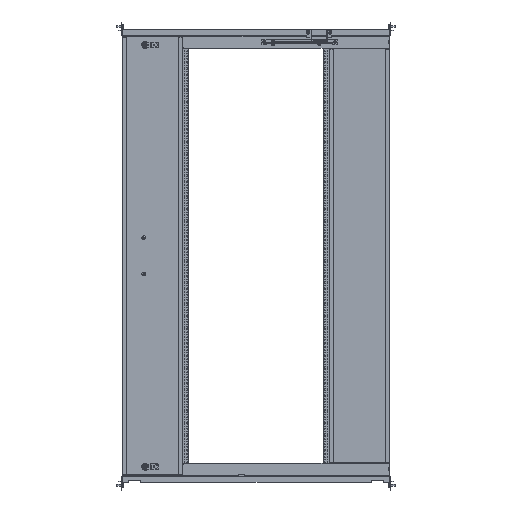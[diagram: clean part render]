
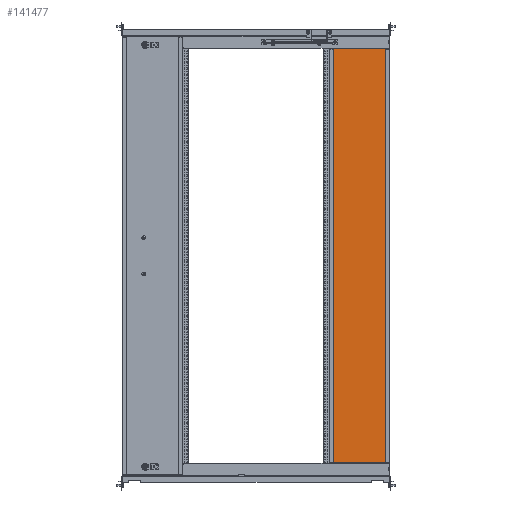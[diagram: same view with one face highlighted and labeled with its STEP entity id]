
A CAD part, top view. The second image highlights one B-rep face of the part: STEP entity #141477.
In plain terms, the highlighted planar face has unit normal (0, 0, 1).
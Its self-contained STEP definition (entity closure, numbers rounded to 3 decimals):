
#141060 = VERTEX_POINT('',#141061);
#141061 = CARTESIAN_POINT('',(-98.5,-686.9,0.));
#141067 = EDGE_CURVE('',#141068,#141060,#141070,.T.);
#141068 = VERTEX_POINT('',#141069);
#141069 = CARTESIAN_POINT('',(-98.5,686.9,0.));
#141070 = LINE('',#141071,#141072);
#141071 = CARTESIAN_POINT('',(-98.5,0.,
    0.));
#141072 = VECTOR('',#141073,1.);
#141073 = DIRECTION('',(0.,-1.,-0.));
#141248 = VERTEX_POINT('',#141249);
#141249 = CARTESIAN_POINT('',(98.5,686.9,0.));
#141255 = EDGE_CURVE('',#141256,#141248,#141258,.T.);
#141256 = VERTEX_POINT('',#141257);
#141257 = CARTESIAN_POINT('',(98.5,-686.9,0.));
#141258 = LINE('',#141259,#141260);
#141259 = CARTESIAN_POINT('',(98.5,0.,
    0.));
#141260 = VECTOR('',#141261,1.);
#141261 = DIRECTION('',(0.,1.,0.));
#141357 = EDGE_CURVE('',#141358,#141360,#141362,.T.);
#141358 = VERTEX_POINT('',#141359);
#141359 = CARTESIAN_POINT('',(97.9,-686.9,0.));
#141360 = VERTEX_POINT('',#141361);
#141361 = CARTESIAN_POINT('',(97.9,-687.5,0.));
#141362 = LINE('',#141363,#141364);
#141363 = CARTESIAN_POINT('',(97.9,0.,0.));
#141364 = VECTOR('',#141365,1.);
#141365 = DIRECTION('',(0.,-1.,-0.));
#141477 = ADVANCED_FACE('',(#141478),#141549,.T.);
#141478 = FACE_BOUND('',#141479,.T.);
#141479 = EDGE_LOOP('',(#141480,#141488,#141496,#141502,#141503,#141509,
    #141510,#141518,#141526,#141534,#141542,#141548));
#141480 = ORIENTED_EDGE('',*,*,#141481,.F.);
#141481 = EDGE_CURVE('',#141482,#141060,#141484,.T.);
#141482 = VERTEX_POINT('',#141483);
#141483 = CARTESIAN_POINT('',(-97.9,-686.9,0.));
#141484 = LINE('',#141485,#141486);
#141485 = CARTESIAN_POINT('',(0.,-686.9,0.));
#141486 = VECTOR('',#141487,1.);
#141487 = DIRECTION('',(-1.,0.,0.));
#141488 = ORIENTED_EDGE('',*,*,#141489,.T.);
#141489 = EDGE_CURVE('',#141482,#141490,#141492,.T.);
#141490 = VERTEX_POINT('',#141491);
#141491 = CARTESIAN_POINT('',(-97.9,-687.5,0.));
#141492 = LINE('',#141493,#141494);
#141493 = CARTESIAN_POINT('',(-97.9,-686.9,0.));
#141494 = VECTOR('',#141495,1.);
#141495 = DIRECTION('',(-0.,-1.,-0.));
#141496 = ORIENTED_EDGE('',*,*,#141497,.F.);
#141497 = EDGE_CURVE('',#141360,#141490,#141498,.T.);
#141498 = LINE('',#141499,#141500);
#141499 = CARTESIAN_POINT('',(0.,-687.5,0.));
#141500 = VECTOR('',#141501,1.);
#141501 = DIRECTION('',(-1.,-0.,-0.));
#141502 = ORIENTED_EDGE('',*,*,#141357,.F.);
#141503 = ORIENTED_EDGE('',*,*,#141504,.T.);
#141504 = EDGE_CURVE('',#141358,#141256,#141505,.T.);
#141505 = LINE('',#141506,#141507);
#141506 = CARTESIAN_POINT('',(97.9,-686.9,0.));
#141507 = VECTOR('',#141508,1.);
#141508 = DIRECTION('',(1.,-0.,-0.));
#141509 = ORIENTED_EDGE('',*,*,#141255,.T.);
#141510 = ORIENTED_EDGE('',*,*,#141511,.F.);
#141511 = EDGE_CURVE('',#141512,#141248,#141514,.T.);
#141512 = VERTEX_POINT('',#141513);
#141513 = CARTESIAN_POINT('',(97.9,686.9,0.));
#141514 = LINE('',#141515,#141516);
#141515 = CARTESIAN_POINT('',(0.,686.9,0.));
#141516 = VECTOR('',#141517,1.);
#141517 = DIRECTION('',(1.,0.,0.));
#141518 = ORIENTED_EDGE('',*,*,#141519,.T.);
#141519 = EDGE_CURVE('',#141512,#141520,#141522,.T.);
#141520 = VERTEX_POINT('',#141521);
#141521 = CARTESIAN_POINT('',(97.9,687.5,0.));
#141522 = LINE('',#141523,#141524);
#141523 = CARTESIAN_POINT('',(97.9,686.9,0.));
#141524 = VECTOR('',#141525,1.);
#141525 = DIRECTION('',(-0.,1.,0.));
#141526 = ORIENTED_EDGE('',*,*,#141527,.T.);
#141527 = EDGE_CURVE('',#141520,#141528,#141530,.T.);
#141528 = VERTEX_POINT('',#141529);
#141529 = CARTESIAN_POINT('',(-97.9,687.5,0.));
#141530 = LINE('',#141531,#141532);
#141531 = CARTESIAN_POINT('',(0.,687.5,
    0.));
#141532 = VECTOR('',#141533,1.);
#141533 = DIRECTION('',(-1.,0.,0.));
#141534 = ORIENTED_EDGE('',*,*,#141535,.F.);
#141535 = EDGE_CURVE('',#141536,#141528,#141538,.T.);
#141536 = VERTEX_POINT('',#141537);
#141537 = CARTESIAN_POINT('',(-97.9,686.9,0.));
#141538 = LINE('',#141539,#141540);
#141539 = CARTESIAN_POINT('',(-97.9,0.,0.));
#141540 = VECTOR('',#141541,1.);
#141541 = DIRECTION('',(-0.,1.,-0.));
#141542 = ORIENTED_EDGE('',*,*,#141543,.T.);
#141543 = EDGE_CURVE('',#141536,#141068,#141544,.T.);
#141544 = LINE('',#141545,#141546);
#141545 = CARTESIAN_POINT('',(-97.9,686.9,0.));
#141546 = VECTOR('',#141547,1.);
#141547 = DIRECTION('',(-1.,-0.,-0.));
#141548 = ORIENTED_EDGE('',*,*,#141067,.T.);
#141549 = PLANE('',#141550);
#141550 = AXIS2_PLACEMENT_3D('',#141551,#141552,#141553);
#141551 = CARTESIAN_POINT('',(0.,0.,0.));
#141552 = DIRECTION('',(0.,-0.,1.));
#141553 = DIRECTION('',(1.,0.,0.));
